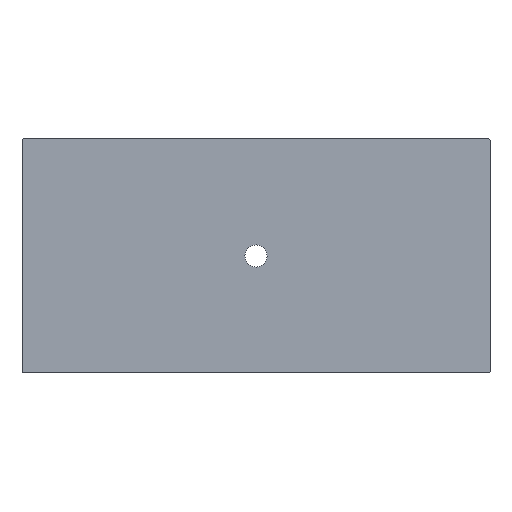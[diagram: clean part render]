
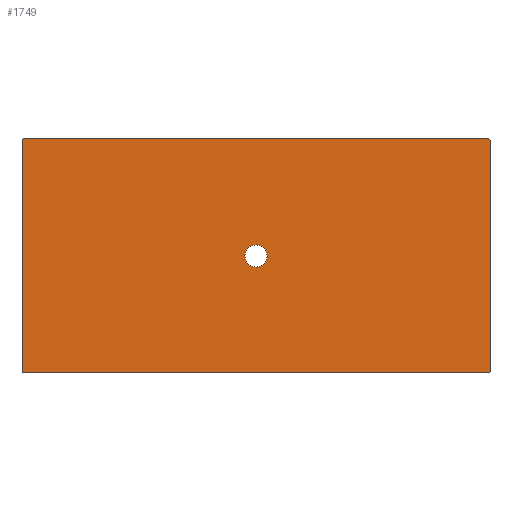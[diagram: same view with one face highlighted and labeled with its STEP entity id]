
A CAD part, front view. The second image highlights one B-rep face of the part: STEP entity #1749.
In plain terms, the highlighted planar face has unit normal (0, -1, 0).
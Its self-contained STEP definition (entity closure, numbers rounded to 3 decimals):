
#12 = EDGE_LOOP ( 'NONE', ( #475 ) ) ;
#14 = EDGE_CURVE ( 'NONE', #2133, #2190, #690, .T. ) ;
#64 = ORIENTED_EDGE ( 'NONE', *, *, #198, .T. ) ;
#83 = DIRECTION ( 'NONE',  ( 0., 1., 0. ) ) ;
#125 = CARTESIAN_POINT ( 'NONE',  ( 0., 0., 0. ) ) ;
#150 = CARTESIAN_POINT ( 'NONE',  ( 1000., 0., 495.001 ) ) ;
#156 = EDGE_CURVE ( 'NONE', #1460, #1271, #948, .T. ) ;
#177 = CARTESIAN_POINT ( 'NONE',  ( 1000., 0., -495.001 ) ) ;
#198 = EDGE_CURVE ( 'NONE', #1931, #2013, #1394, .T. ) ;
#236 = CARTESIAN_POINT ( 'NONE',  ( -995.001, 0., 500. ) ) ;
#306 = ORIENTED_EDGE ( 'NONE', *, *, #1733, .F. ) ;
#330 = CARTESIAN_POINT ( 'NONE',  ( 1000., 0., 500. ) ) ;
#419 = CARTESIAN_POINT ( 'NONE',  ( 0., 0., 0. ) ) ;
#421 = ORIENTED_EDGE ( 'NONE', *, *, #14, .T. ) ;
#431 = PLANE ( 'NONE',  #476 ) ;
#451 = VERTEX_POINT ( 'NONE', #1515 ) ;
#475 = ORIENTED_EDGE ( 'NONE', *, *, #1952, .F. ) ;
#476 = AXIS2_PLACEMENT_3D ( 'NONE', #419, #83, #1985 ) ;
#534 = LINE ( 'NONE', #330, #900 ) ;
#561 = VECTOR ( 'NONE', #2231, 1000. ) ;
#603 = CARTESIAN_POINT ( 'NONE',  ( 997.929, 0., -500. ) ) ;
#690 =( BOUNDED_CURVE ( )  B_SPLINE_CURVE ( 3, ( #236, #2381, #815, #840 ),
 .UNSPECIFIED., .F., .T. ) 
 B_SPLINE_CURVE_WITH_KNOTS ( ( 4, 4 ),
 ( 5.498, 7.068 ),
 .UNSPECIFIED. ) 
 CURVE ( )  GEOMETRIC_REPRESENTATION_ITEM ( )  RATIONAL_B_SPLINE_CURVE ( ( 1., 0.805, 0.805, 1. ) ) 
 REPRESENTATION_ITEM ( '' )  );
#801 = CARTESIAN_POINT ( 'NONE',  ( 995.001, 0., -500. ) ) ;
#813 = DIRECTION ( 'NONE',  ( -1., 0., 0. ) ) ;
#815 = CARTESIAN_POINT ( 'NONE',  ( -1000., 0., 497.929 ) ) ;
#828 = ORIENTED_EDGE ( 'NONE', *, *, #1994, .T. ) ;
#840 = CARTESIAN_POINT ( 'NONE',  ( -1000., 0., 495.001 ) ) ;
#894 = DIRECTION ( 'NONE',  ( 0., 0., -1. ) ) ;
#900 = VECTOR ( 'NONE', #1638, 1000. ) ;
#920 = CARTESIAN_POINT ( 'NONE',  ( 1000., 0., 497.929 ) ) ;
#948 =( BOUNDED_CURVE ( )  B_SPLINE_CURVE ( 3, ( #2330, #1184, #1746, #1327 ),
 .UNSPECIFIED., .F., .F. ) 
 B_SPLINE_CURVE_WITH_KNOTS ( ( 4, 4 ),
 ( 5.498, 7.068 ),
 .UNSPECIFIED. ) 
 CURVE ( )  GEOMETRIC_REPRESENTATION_ITEM ( )  RATIONAL_B_SPLINE_CURVE ( ( 1., 0.805, 0.805, 1. ) ) 
 REPRESENTATION_ITEM ( '' )  );
#1129 = VECTOR ( 'NONE', #813, 1000. ) ;
#1184 = CARTESIAN_POINT ( 'NONE',  ( -1000., 0., -497.929 ) ) ;
#1199 = ORIENTED_EDGE ( 'NONE', *, *, #156, .T. ) ;
#1271 = VERTEX_POINT ( 'NONE', #1724 ) ;
#1312 = CARTESIAN_POINT ( 'NONE',  ( 1000., 0., -495.001 ) ) ;
#1327 = CARTESIAN_POINT ( 'NONE',  ( -995.001, 0., -500. ) ) ;
#1353 = ORIENTED_EDGE ( 'NONE', *, *, #2195, .F. ) ;
#1394 =( BOUNDED_CURVE ( )  B_SPLINE_CURVE ( 3, ( #801, #603, #2318, #177 ),
 .UNSPECIFIED., .F., .F. ) 
 B_SPLINE_CURVE_WITH_KNOTS ( ( 4, 4 ),
 ( 5.498, 7.068 ),
 .UNSPECIFIED. ) 
 CURVE ( )  GEOMETRIC_REPRESENTATION_ITEM ( )  RATIONAL_B_SPLINE_CURVE ( ( 1., 0.805, 0.805, 1. ) ) 
 REPRESENTATION_ITEM ( '' )  );
#1439 = CARTESIAN_POINT ( 'NONE',  ( 1000., 0., -500. ) ) ;
#1447 = LINE ( 'NONE', #2468, #561 ) ;
#1448 = CIRCLE ( 'NONE', #2103, 47.5 ) ;
#1460 = VERTEX_POINT ( 'NONE', #1556 ) ;
#1493 = DIRECTION ( 'NONE',  ( 0., -1., 0. ) ) ;
#1515 = CARTESIAN_POINT ( 'NONE',  ( 995.001, 0., 500. ) ) ;
#1539 = CARTESIAN_POINT ( 'NONE',  ( 0., 0., -47.5 ) ) ;
#1556 = CARTESIAN_POINT ( 'NONE',  ( -1000., 0., -495.001 ) ) ;
#1559 = EDGE_CURVE ( 'NONE', #1460, #2190, #1568, .T. ) ;
#1568 = LINE ( 'NONE', #2120, #1571 ) ;
#1571 = VECTOR ( 'NONE', #1580, 1000. ) ;
#1580 = DIRECTION ( 'NONE',  ( 0., 0., 1. ) ) ;
#1581 = VERTEX_POINT ( 'NONE', #2176 ) ;
#1613 =( BOUNDED_CURVE ( )  B_SPLINE_CURVE ( 3, ( #150, #920, #1695, #2472 ),
 .UNSPECIFIED., .F., .F. ) 
 B_SPLINE_CURVE_WITH_KNOTS ( ( 4, 4 ),
 ( 5.498, 7.068 ),
 .UNSPECIFIED. ) 
 CURVE ( )  GEOMETRIC_REPRESENTATION_ITEM ( )  RATIONAL_B_SPLINE_CURVE ( ( 1., 0.805, 0.805, 1. ) ) 
 REPRESENTATION_ITEM ( '' )  );
#1638 = DIRECTION ( 'NONE',  ( 0., 0., -1. ) ) ;
#1695 = CARTESIAN_POINT ( 'NONE',  ( 997.929, 0., 500. ) ) ;
#1724 = CARTESIAN_POINT ( 'NONE',  ( -995.001, 0., -500. ) ) ;
#1733 = EDGE_CURVE ( 'NONE', #1931, #1271, #2012, .T. ) ;
#1746 = CARTESIAN_POINT ( 'NONE',  ( -997.929, 0., -500. ) ) ;
#1749 = ADVANCED_FACE ( 'NONE', ( #2188, #1825 ), #431, .F. ) ;
#1762 = EDGE_LOOP ( 'NONE', ( #306, #64, #1353, #828, #2423, #421, #1841, #1199 ) ) ;
#1825 = FACE_OUTER_BOUND ( 'NONE', #1762, .T. ) ;
#1834 = CARTESIAN_POINT ( 'NONE',  ( -995.001, 0., 500. ) ) ;
#1841 = ORIENTED_EDGE ( 'NONE', *, *, #1559, .F. ) ;
#1931 = VERTEX_POINT ( 'NONE', #2434 ) ;
#1952 = EDGE_CURVE ( 'NONE', #2126, #2126, #1448, .T. ) ;
#1985 = DIRECTION ( 'NONE',  ( 0., 0., 1. ) ) ;
#1994 = EDGE_CURVE ( 'NONE', #1581, #451, #1613, .T. ) ;
#2012 = LINE ( 'NONE', #1439, #1129 ) ;
#2013 = VERTEX_POINT ( 'NONE', #1312 ) ;
#2103 = AXIS2_PLACEMENT_3D ( 'NONE', #125, #1493, #894 ) ;
#2108 = EDGE_CURVE ( 'NONE', #2133, #451, #1447, .T. ) ;
#2120 = CARTESIAN_POINT ( 'NONE',  ( -1000., 0., -500. ) ) ;
#2126 = VERTEX_POINT ( 'NONE', #1539 ) ;
#2133 = VERTEX_POINT ( 'NONE', #1834 ) ;
#2176 = CARTESIAN_POINT ( 'NONE',  ( 1000., 0., 495.001 ) ) ;
#2188 = FACE_BOUND ( 'NONE', #12, .T. ) ;
#2190 = VERTEX_POINT ( 'NONE', #2256 ) ;
#2195 = EDGE_CURVE ( 'NONE', #1581, #2013, #534, .T. ) ;
#2231 = DIRECTION ( 'NONE',  ( 1., 0., 0. ) ) ;
#2256 = CARTESIAN_POINT ( 'NONE',  ( -1000., 0., 495.001 ) ) ;
#2318 = CARTESIAN_POINT ( 'NONE',  ( 1000., 0., -497.929 ) ) ;
#2330 = CARTESIAN_POINT ( 'NONE',  ( -1000., 0., -495.001 ) ) ;
#2381 = CARTESIAN_POINT ( 'NONE',  ( -997.929, 0., 500. ) ) ;
#2423 = ORIENTED_EDGE ( 'NONE', *, *, #2108, .F. ) ;
#2434 = CARTESIAN_POINT ( 'NONE',  ( 995.001, 0., -500. ) ) ;
#2468 = CARTESIAN_POINT ( 'NONE',  ( -1000., 0., 500. ) ) ;
#2472 = CARTESIAN_POINT ( 'NONE',  ( 995.001, 0., 500. ) ) ;
